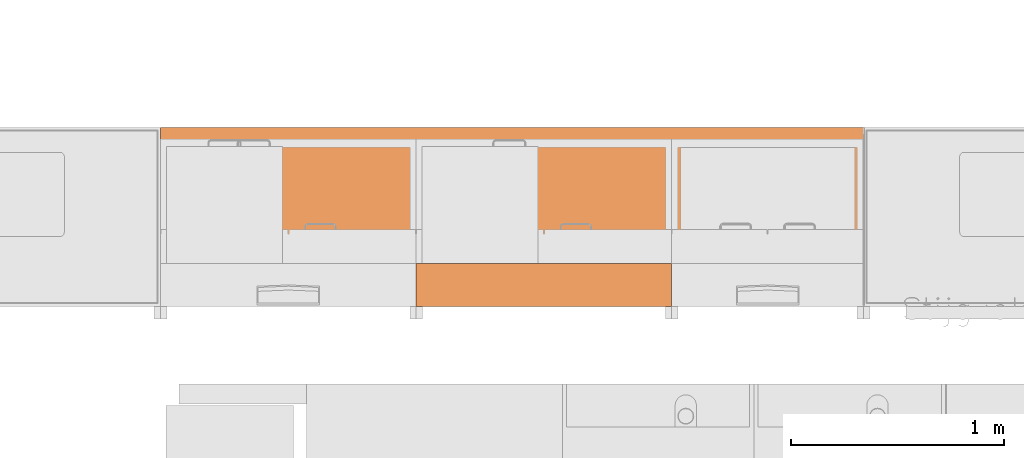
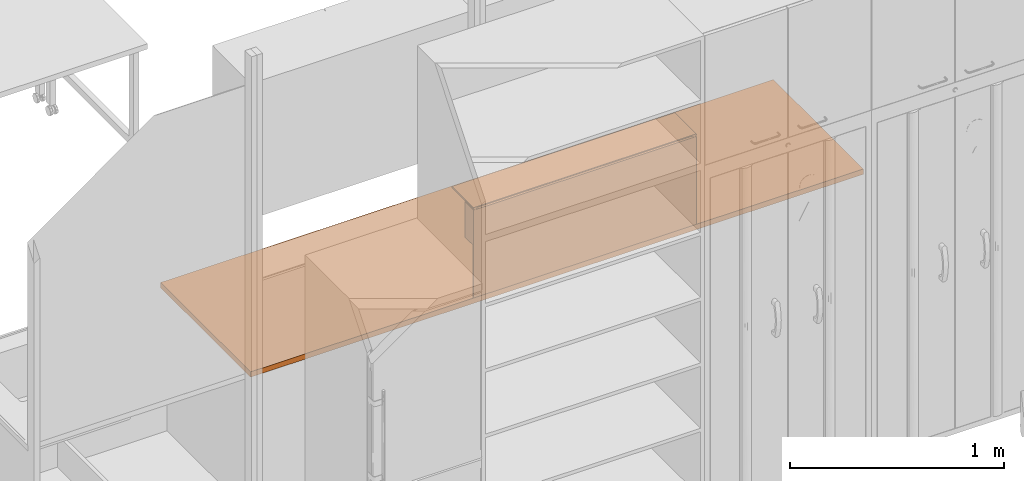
# One storey, part 6 of 32: 2 proxies.
"""IFC2X3 building model written with IfcOpenShell, lengths in metres."""

from ifc_helpers import new_model, entity, si_unit, converted_unit, derived_unit, direction, frame, frame_2d, origin, origin_2d_with_axis, place, context, subcontext, project, spatial, polyline, circle_curve, parameter, trimmed, segment, composite_curve, rectangle, outline, extrude, source, transform, mapped, material, material_list, type_object, type_shapes, element, save


model = new_model("IFC2X3")

# Units and contexts
model_context = context("Model", 3, precision=1e-05, world=origin(), true_north=direction((6.12303176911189e-17, 1.0)))
body_context = subcontext(model_context, "Body", "Model", "MODEL_VIEW")
ifc_project = project(units=[si_unit("LENGTHUNIT", "METRE"), si_unit("AREAUNIT", "SQUARE_METRE"), si_unit("VOLUMEUNIT", "CUBIC_METRE"), converted_unit("PLANEANGLEUNIT", "DEGREE", entity("IfcRatioMeasure", 0.0174532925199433), si_unit("PLANEANGLEUNIT", "RADIAN"), dimensions=[0, 0, 0, 0, 0, 0, 0]), si_unit("MASSUNIT", "GRAM", prefix="KILO"), derived_unit("MASSDENSITYUNIT", [(si_unit("MASSUNIT", "GRAM", prefix="KILO"), 1), (si_unit("LENGTHUNIT", "METRE"), -3)]), derived_unit("MOMENTOFINERTIAUNIT", [(si_unit("LENGTHUNIT", "METRE"), 4)]), si_unit("TIMEUNIT", "SECOND"), si_unit("FREQUENCYUNIT", "HERTZ"), si_unit("THERMODYNAMICTEMPERATUREUNIT", "DEGREE_CELSIUS"), derived_unit("THERMALTRANSMITTANCEUNIT", [(si_unit("MASSUNIT", "GRAM", prefix="KILO"), 1), (si_unit("THERMODYNAMICTEMPERATUREUNIT", "KELVIN"), -1), (si_unit("TIMEUNIT", "SECOND"), -3)]), derived_unit("VOLUMETRICFLOWRATEUNIT", [(si_unit("LENGTHUNIT", "METRE"), 3), (si_unit("TIMEUNIT", "SECOND"), -1)]), si_unit("ELECTRICCURRENTUNIT", "AMPERE"), si_unit("ELECTRICVOLTAGEUNIT", "VOLT"), si_unit("POWERUNIT", "WATT"), si_unit("FORCEUNIT", "NEWTON", prefix="KILO"), si_unit("ILLUMINANCEUNIT", "LUX"), si_unit("LUMINOUSFLUXUNIT", "LUMEN"), si_unit("LUMINOUSINTENSITYUNIT", "CANDELA"), derived_unit("USERDEFINED", [(si_unit("MASSUNIT", "GRAM", prefix="KILO"), -1), (si_unit("LENGTHUNIT", "METRE"), -2), (si_unit("TIMEUNIT", "SECOND"), 3), (si_unit("LUMINOUSFLUXUNIT", "LUMEN"), 1)]), derived_unit("LINEARVELOCITYUNIT", [(si_unit("LENGTHUNIT", "METRE"), 1), (si_unit("TIMEUNIT", "SECOND"), -1)]), si_unit("PRESSUREUNIT", "PASCAL"), derived_unit("USERDEFINED", [(si_unit("LENGTHUNIT", "METRE"), -2), (si_unit("MASSUNIT", "GRAM", prefix="KILO"), 1), (si_unit("TIMEUNIT", "SECOND"), -2)]), derived_unit("LINEARFORCEUNIT", [(si_unit("MASSUNIT", "GRAM", prefix="KILO"), 1), (si_unit("LENGTHUNIT", "METRE"), 1), (si_unit("TIMEUNIT", "SECOND"), -2), (si_unit("LENGTHUNIT", "METRE"), -1)]), derived_unit("PLANARFORCEUNIT", [(si_unit("MASSUNIT", "GRAM", prefix="KILO"), 1), (si_unit("LENGTHUNIT", "METRE"), 1), (si_unit("TIMEUNIT", "SECOND"), -2), (si_unit("LENGTHUNIT", "METRE"), -2)])], contexts=[model_context])

# Site, building, storey
site_placement = place(None, origin())
site = spatial("IfcSite", under=ifc_project, at=site_placement, Name="Default", CompositionType="ELEMENT")
building_placement = place(site_placement, origin())
building = spatial("IfcBuilding", under=site, at=building_placement, CompositionType="ELEMENT")
storey_placement = place(building_placement, origin())
storey = spatial("IfcBuildingStorey", under=building, at=storey_placement, Name="00 EG", CompositionType="ELEMENT", Elevation=0.0)

# Proxies
ifc_material_1 = material(Name="dh_Weiß")
ifc_material_2 = material(Name="dh_Glas WHS")
ifc_material_3 = material(Name="dh_Blau")
ifc_material_list_1 = material_list([ifc_material_1, ifc_material_2, ifc_material_3])
ifc_material_list_2 = material_list([ifc_material_2, ifc_material_3, ifc_material_1])
building_element_proxy_type_1 = type_object("IfcBuildingElementProxyType", Name="dh_Medienwand WHA:120 Stehtisch", PredefinedType="NOTDEFINED", material=ifc_material_list_2)
shared_shape_1 = source(origin(), body_context, "Body", "SweptSolid", [
    extrude(outline(composite_curve([segment(trimmed(circle_curve(frame_2d((0.0, 0.0), x_axis=(-1.0, 0.0)), 0.01), [parameter(0.0)], [parameter(180.0)], True, "PARAMETER"), True, "CONTINUOUS"), segment(polyline([(0.01, 0.0), (-0.01, 0.0)]), True, "CONTINUOUS")], self_intersect=False)), frame((-0.589999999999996, 0.1, 1.40999999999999), z_axis=(0.0, -1.0, 0.0), x_axis=(1.0, 0.0, 0.0)), (0.0, 0.0, -1.0), 0.2),
    extrude(outline(composite_curve([segment(trimmed(circle_curve(origin_2d_with_axis(), 0.00999999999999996), [parameter(0.0)], [parameter(180.0)], True, "PARAMETER"), True, "CONTINUOUS"), segment(polyline([(-0.0099999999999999, 0.0), (0.0099999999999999, 0.0)]), True, "CONTINUOUS")], self_intersect=False)), frame((0.590000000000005, 0.1, 1.40999999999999), z_axis=(0.0, 1.0, 0.0), x_axis=(1.0, 0.0, 0.0)), (0.0, 0.0, 1.0), 0.2),
    extrude(rectangle(XDim=1.2, YDim=0.2, at=origin_2d_with_axis()), frame((0.0, 0.2, 1.40999999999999), z_axis=(0.0, 0.0, 1.0), x_axis=(-1.0, 0.0, 0.0)), (0.0, 0.0, 1.0), 0.00499999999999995),
    extrude(rectangle(XDim=0.00500000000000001, YDim=1.2, at=frame_2d((-3.38271077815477e-17, 0.0), x_axis=(1.0, 0.0))), frame((0.0, 0.2975, 0.900000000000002), z_axis=(0.0, 0.0, 1.0), x_axis=(0.0, 1.0, 0.0)), (0.0, 0.0, 1.0), 0.299999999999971),
    extrude(rectangle(XDim=1.2, YDim=0.08, at=frame_2d((0.0, 3.46944695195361e-17), x_axis=(1.0, 0.0))), frame((0.0, 0.26, 1.20000000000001), z_axis=(0.0, 0.0, 1.0), x_axis=(-1.0, 0.0, 0.0)), (0.0, 0.0, 1.0), 0.199999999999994),
])
type_shapes(building_element_proxy_type_1, [shared_shape_1])
proxy_1_placement = place(storey_placement, frame((13.7499999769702, 10.5099999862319, 0.0), z_axis=(0.0, 0.0, 1.0), x_axis=(-1.0, 0.0, 0.0)))
element("IfcBuildingElementProxy", 1, at=proxy_1_placement, inside=storey, type_object=building_element_proxy_type_1, material=ifc_material_list_1, Name="dh_Medienwand WHA:120 Stehtisch", ObjectType="dh_Medienwand WHA:120 Stehtisch", context=body_context, shape_type="MappedRepresentation", body=[
    mapped(shared_shape_1, transform((0.0, 0.0, 0.0), scale=1.0)),
])
ifc_material_4 = material(Name="dh_Edelstahl_Horizontal")
building_element_proxy_type_2 = type_object("IfcBuildingElementProxyType", Name="dh_Tischplatte Edelstahl:TP Edelstahl", PredefinedType="NOTDEFINED", material=ifc_material_4)
shared_shape_2 = source(origin(), body_context, "Body", "SweptSolid", [
    extrude(rectangle(XDim=3.30000000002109, YDim=0.840000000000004, at=origin_2d_with_axis()), frame((0.0447003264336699, -0.420000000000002, 0.869999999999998), z_axis=(0.0, 0.0, 1.0), x_axis=(-1.0, 0.0, 0.0)), (0.0, 0.0, 1.0), 0.0299999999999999),
])
type_shapes(building_element_proxy_type_2, [shared_shape_2])
proxy_2_placement = place(storey_placement, frame((13.6447003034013, 10.2099999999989, 0.0), z_axis=(0.0, 0.0, 1.0), x_axis=(-1.0, 0.0, 0.0)))
element("IfcBuildingElementProxy", 2, at=proxy_2_placement, inside=storey, type_object=building_element_proxy_type_2, material=ifc_material_4, Name="dh_Tischplatte Edelstahl:TP Edelstahl", ObjectType="dh_Tischplatte Edelstahl:TP Edelstahl", context=body_context, shape_type="MappedRepresentation", body=[
    mapped(shared_shape_2, transform((0.0, 0.0, 0.0), scale=1.0)),
])

save(model, "model.ifc")
